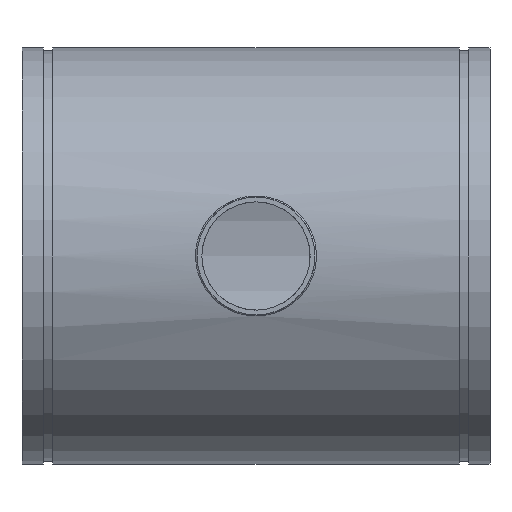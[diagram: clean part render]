
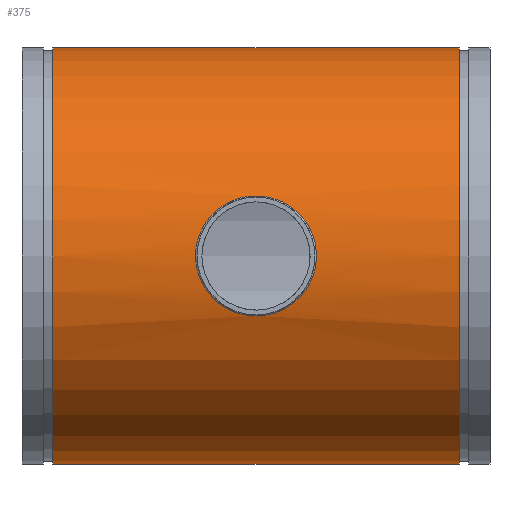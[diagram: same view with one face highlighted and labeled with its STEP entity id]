
A CAD part, front view. The second image highlights one B-rep face of the part: STEP entity #375.
In plain terms, the highlighted cylindrical face has radius 406.4 mm (diameter 812.8 mm), a full revolution.
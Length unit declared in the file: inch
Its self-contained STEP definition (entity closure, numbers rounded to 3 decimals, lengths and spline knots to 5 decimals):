
#54=FACE_BOUND('',#119,.T.);
#65=LINE('',#798,#76);
#76=VECTOR('',#483,16.);
#87=CYLINDRICAL_SURFACE('',#415,16.);
#98=FACE_OUTER_BOUND('',#118,.T.);
#118=EDGE_LOOP('',(#266,#267,#268,#269));
#119=EDGE_LOOP('',(#270));
#150=B_SPLINE_CURVE_WITH_KNOTS('',3,(#769,#770,#771,#772,#773,#774,#775,
#776,#777,#778,#779,#780,#781,#782,#783,#784,#785,#786,#787,#788,#789,#790,
#791,#792,#793),.UNSPECIFIED.,.T.,.F.,(4,1,1,1,1,1,1,1,1,1,1,1,1,1,1,1,
1,1,1,1,1,1,4),(-69.68317,-67.19449,-64.7058,-59.72843,
-57.23975,-54.75106,-52.26238,-49.77369,
-46.45545,-43.1372,-39.81895,-36.50071,-33.18246,
-29.86422,-26.54597,-23.22772,-19.90948,
-16.59123,-13.27298,-9.95474,-4.97737,
-2.48868,0.),.UNSPECIFIED.);
#154=CIRCLE('',#416,16.);
#155=CIRCLE('',#417,16.);
#182=VERTEX_POINT('',#736);
#185=VERTEX_POINT('',#795);
#186=VERTEX_POINT('',#797);
#219=EDGE_CURVE('',#182,#182,#150,.T.);
#220=EDGE_CURVE('',#185,#185,#154,.T.);
#221=EDGE_CURVE('',#185,#186,#65,.T.);
#222=EDGE_CURVE('',#186,#186,#155,.T.);
#266=ORIENTED_EDGE('',*,*,#220,.T.);
#267=ORIENTED_EDGE('',*,*,#221,.T.);
#268=ORIENTED_EDGE('',*,*,#222,.T.);
#269=ORIENTED_EDGE('',*,*,#221,.F.);
#270=ORIENTED_EDGE('',*,*,#219,.F.);
#375=ADVANCED_FACE('',(#98,#54),#87,.T.);
#415=AXIS2_PLACEMENT_3D('',#794,#479,#480);
#416=AXIS2_PLACEMENT_3D('',#796,#481,#482);
#417=AXIS2_PLACEMENT_3D('',#799,#484,#485);
#479=DIRECTION('center_axis',(-1.,0.,0.));
#480=DIRECTION('ref_axis',(0.,-1.,0.));
#481=DIRECTION('center_axis',(1.,0.,0.));
#482=DIRECTION('ref_axis',(0.,-1.,0.));
#483=DIRECTION('',(1.,0.,0.));
#484=DIRECTION('center_axis',(-1.,0.,0.));
#485=DIRECTION('ref_axis',(0.,-1.,0.));
#736=CARTESIAN_POINT('',(0.,-15.32029,-4.61395));
#769=CARTESIAN_POINT('Ctrl Pts',(0.,-15.32029,
-4.61395));
#770=CARTESIAN_POINT('Ctrl Pts',(0.34969,-15.32029,-4.61395));
#771=CARTESIAN_POINT('Ctrl Pts',(1.0488,-15.34435,-4.53508));
#772=CARTESIAN_POINT('Ctrl Pts',(2.37178,-15.4774,-4.07402));
#773=CARTESIAN_POINT('Ctrl Pts',(3.47825,-15.69507,-3.19655));
#774=CARTESIAN_POINT('Ctrl Pts',(4.22142,-15.88073,-2.02502));
#775=CARTESIAN_POINT('Ctrl Pts',(4.5708,-15.97707,-1.04095));
#776=CARTESIAN_POINT('Ctrl Pts',(4.6896,-16.01146,-0.00002));
#777=CARTESIAN_POINT('Ctrl Pts',(4.5576,-15.97334,1.15667));
#778=CARTESIAN_POINT('Ctrl Pts',(4.08365,-15.84255,2.34768));
#779=CARTESIAN_POINT('Ctrl Pts',(3.21021,-15.63746,3.43195));
#780=CARTESIAN_POINT('Ctrl Pts',(2.05476,-15.43863,4.21599));
#781=CARTESIAN_POINT('Ctrl Pts',(0.70817,-15.31524,4.63116));
#782=CARTESIAN_POINT('Ctrl Pts',(-0.70816,-15.31524,4.63117));
#783=CARTESIAN_POINT('Ctrl Pts',(-2.0548,-15.4386,4.21599));
#784=CARTESIAN_POINT('Ctrl Pts',(-3.21027,-15.6375,3.43192));
#785=CARTESIAN_POINT('Ctrl Pts',(-4.08363,-15.84249,2.34762));
#786=CARTESIAN_POINT('Ctrl Pts',(-4.60072,-15.98535,1.04847));
#787=CARTESIAN_POINT('Ctrl Pts',(-4.70765,-16.01677,-0.35253));
#788=CARTESIAN_POINT('Ctrl Pts',(-4.39058,-15.92547,-1.71846));
#789=CARTESIAN_POINT('Ctrl Pts',(-3.5703,-15.71331,-3.1235));
#790=CARTESIAN_POINT('Ctrl Pts',(-2.37181,-15.47735,-4.07403));
#791=CARTESIAN_POINT('Ctrl Pts',(-1.04878,-15.34437,-4.53507));
#792=CARTESIAN_POINT('Ctrl Pts',(-0.34969,-15.32029,-4.61395));
#793=CARTESIAN_POINT('Ctrl Pts',(0.,-15.32029,
-4.61395));
#794=CARTESIAN_POINT('Origin',(18.,0.,0.));
#795=CARTESIAN_POINT('',(-15.625,16.,0.));
#796=CARTESIAN_POINT('Origin',(-15.625,0.,0.));
#797=CARTESIAN_POINT('',(15.625,16.,0.));
#798=CARTESIAN_POINT('',(18.,16.,0.));
#799=CARTESIAN_POINT('Origin',(15.625,0.,0.));
